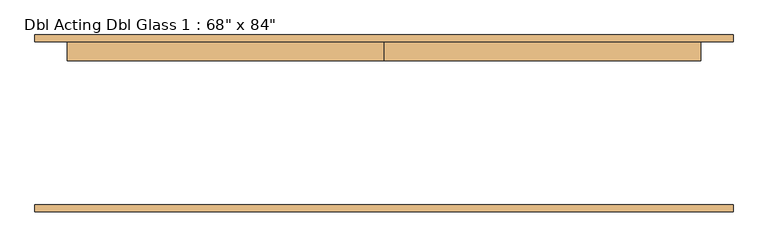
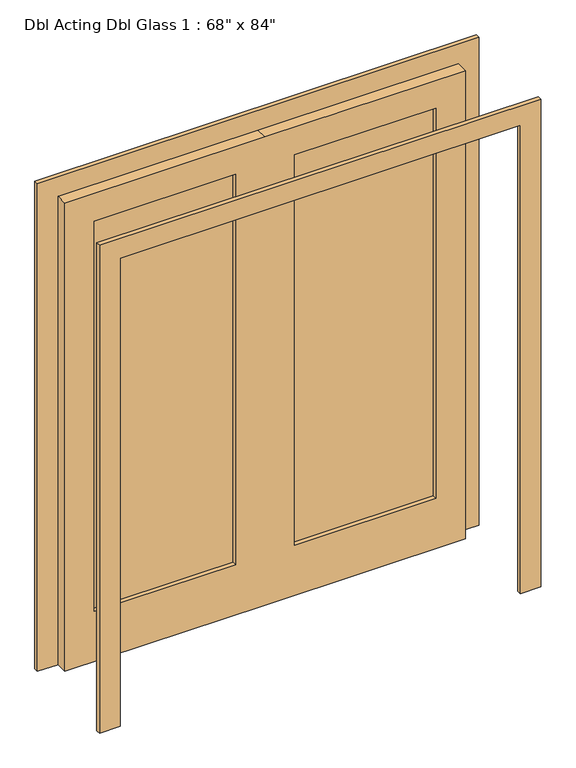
"""IFC4 building model written with IfcOpenShell, lengths in millimetres: door geometry."""

from ifc_helpers import new_model, si_unit, frame, origin, place, context, project, spatial, polyline, outline, extrude, source, transform, mapped, element, save


def door_bbe262d5(model_context):
    return source(origin(), model_context, "Body", "SweptSolid", [
        extrude(outline(polyline([(127.0, 228.6), (736.6, 228.6), (736.6, 215.9), (127.0, 215.9), (127.0, 228.6)])), frame((0.0, 0.0, 228.6), z_axis=(0.0, 0.0, 1.0), x_axis=(1.0, 0.0, 0.0)), (0.0, 0.0, 1.0), 1778.0),
        extrude(outline(polyline([(-736.6, 228.6), (-127.0, 228.6), (-127.0, 215.9), (-736.6, 215.9), (-736.6, 228.6)])), frame((0.0, 0.0, 228.6), z_axis=(0.0, 0.0, 1.0), x_axis=(1.0, 0.0, 0.0)), (0.0, 0.0, 1.0), 1778.0),
        extrude(outline(polyline([(2133.6, 0.0), (2133.6, -863.6), (0.0, -863.6), (0.0, 0.0), (0.0, 863.6), (2133.6, 863.6), (2133.6, 0.0)]), holes=[polyline([(2006.6, 127.0), (2006.6, 736.6), (228.6, 736.6), (228.6, 127.0), (2006.6, 127.0)]), polyline([(2006.6, -127.0), (228.6, -127.0), (228.6, -736.6), (2006.6, -736.6), (2006.6, -127.0)])]), frame((0.0, 196.85, 0.0), z_axis=(0.0, 1.0, 0.0), x_axis=(0.0, 0.0, 1.0)), (0.0, 0.0, 1.0), 50.8),
        extrude(outline(polyline([(2133.6, -863.6), (2133.6, 863.6), (0.0, 863.6), (0.0, 952.5), (2222.5, 952.5), (2222.5, -952.5), (0.0, -952.5), (0.0, -863.6), (2133.6, -863.6)])), frame((0.0, -215.9, 0.0), z_axis=(0.0, 1.0, 0.0), x_axis=(0.0, 0.0, 1.0)), (0.0, 0.0, 1.0), 19.05),
        extrude(outline(polyline([(2133.6, -863.6), (2133.6, 863.6), (0.0, 863.6), (0.0, 952.5), (2222.5, 952.5), (2222.5, -952.5), (0.0, -952.5), (0.0, -863.6), (2133.6, -863.6)])), frame((0.0, 247.65, 0.0), z_axis=(0.0, 1.0, 0.0), x_axis=(0.0, 0.0, 1.0)), (0.0, 0.0, 1.0), 19.05),
    ])


if __name__ == "__main__":
    model = new_model("IFC4")
    model_context = context("Model", 3, world=origin())
    ifc_project = project(units=[si_unit("LENGTHUNIT", "METRE", prefix="MILLI")], contexts=[model_context])
    site = spatial("IfcSite", under=ifc_project)
    building = spatial("IfcBuilding", under=site)
    placement = place(None, origin())
    door_shape = door_bbe262d5(model_context)
    element("IfcDoor", 1, ObjectType="Dbl Acting Dbl Glass 1 : 68\" x 84\"", at=placement, inside=building, context=model_context, shape_type="MappedRepresentation", body=[
        mapped(door_shape, transform((0.0, 0.0, 0.0), x_axis=(1.0, 0.0, 0.0), y_axis=(0.0, 1.0, 0.0), z_axis=(0.0, 0.0, 1.0))),
    ])
    save(model, "model.ifc")
